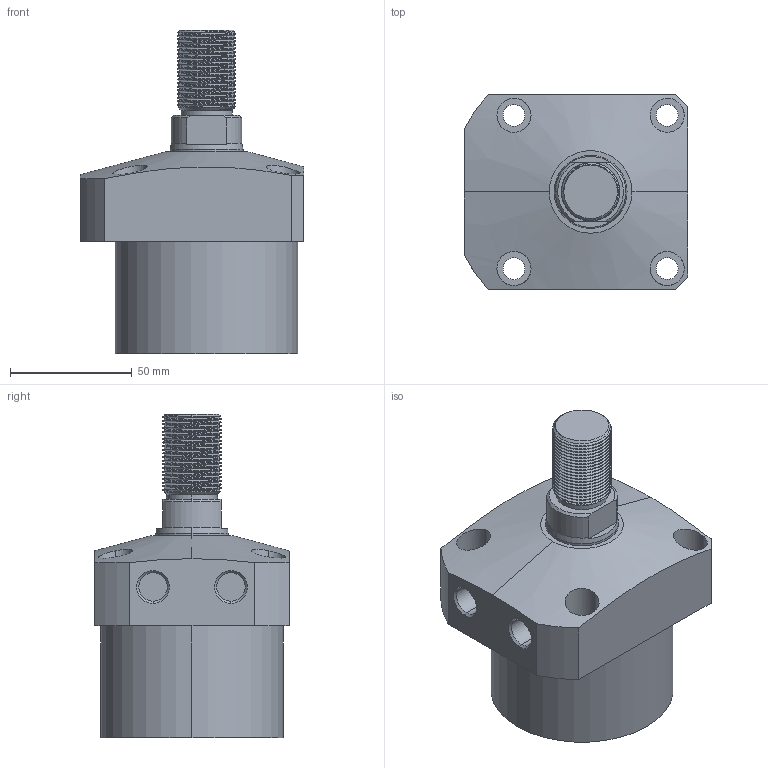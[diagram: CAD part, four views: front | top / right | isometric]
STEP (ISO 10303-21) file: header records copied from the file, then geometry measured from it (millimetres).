
FILE_DESCRIPTION (( 'STEP AP203' ), '1' );
FILE_NAME ('CLL-075CT-030.STEP', '2020-01-08T11:50:03', ( '' ), ( '' ), 'SwSTEP 2.0', 'SolidWorks 2015', '' );
FILE_SCHEMA (( 'CONFIG_CONTROL_DESIGN' ));
Length unit declared in the file: millimetre
Products named in the file (1): CLL-075CT-030
Bounding box: 92 x 80 x 133 mm (x, y, z)
Volume: 446457.6 mm3; surface area: 45209.6 mm2
Topology: 1 solids, 1 shells, 119 faces, 308 edges, 202 vertices
Faces by surface type: cylinder 77, plane 23, cone 17, bspline 2
Entity records: 6541 total; most frequent: CARTESIAN_POINT 3788, ORIENTED_EDGE 616, DIRECTION 504, EDGE_CURVE 308, VERTEX_POINT 202, AXIS2_PLACEMENT_3D 198, EDGE_LOOP 138, ADVANCED_FACE 119
